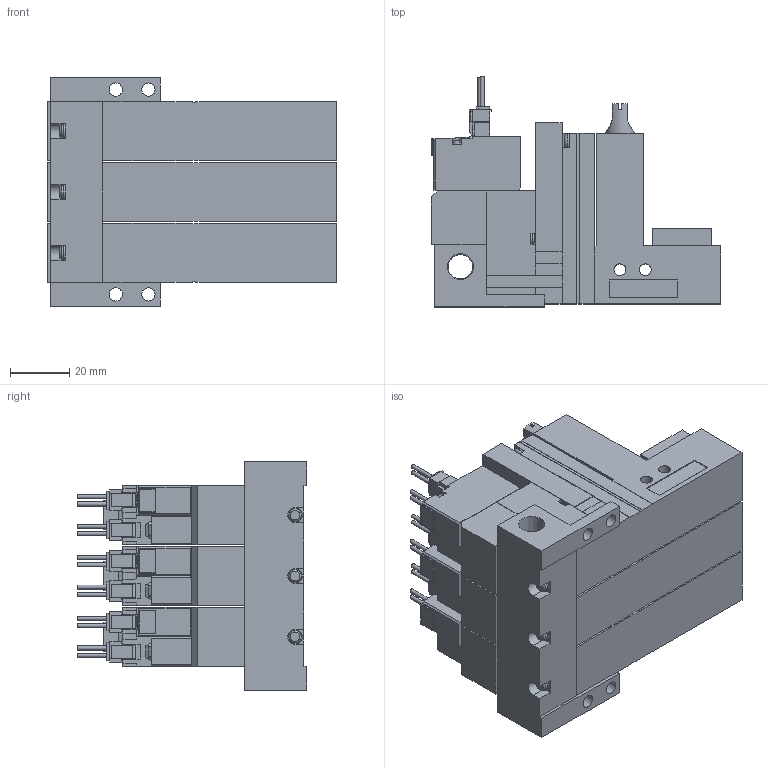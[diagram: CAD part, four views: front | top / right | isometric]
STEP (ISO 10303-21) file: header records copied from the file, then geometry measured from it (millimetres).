
FILE_DESCRIPTION(('STEP AP203'),'1');
FILE_NAME('ZLC5ALR303.stp','2025-02-18T07:21:29',(' '),(' '),'Spatial InterOp 3D',' ',' ');
FILE_SCHEMA(('CONFIG_CONTROL_DESIGN'));
Length unit declared in the file: millimetre
Products named in the file (5): BMC22M※※※※ZLC5ALR303; Solenoid valve A; Pressure sensor ZLC; Unit LC; Base MR30R
Assembly tree (10 placements, depth 2):
  BMC22M※※※※ZLC5ALR303
    Solenoid valve A  x3
    Pressure sensor ZLC  x3
    Unit LC  x3
    Base MR30R
Bounding box: 97.6 x 77.45 x 77 mm (x, y, z)
Volume: 272810.3 mm3; surface area: 73196.9 mm2
Topology: 10 solids, 10 shells, 1167 faces, 3167 edges, 2077 vertices
Faces by surface type: plane 1004, cylinder 125, cone 23, torus 15
Full cylindrical faces by diameter (mm): 1.4 x12, 2.5 x3, 3 x12, 3.5 x12, 3.6 x3, 4 x6, 4.134 x3, 4.5 x4, 5.2 x3, 6 x3, 6.6 x3, 8.279 x1
Entity records: 13600 total; most frequent: CARTESIAN_POINT 2573, ORIENTED_EDGE 2186, DIRECTION 2139, EDGE_CURVE 1093, LINE 925, VECTOR 925, VERTEX_POINT 750, AXIS2_PLACEMENT_3D 607
